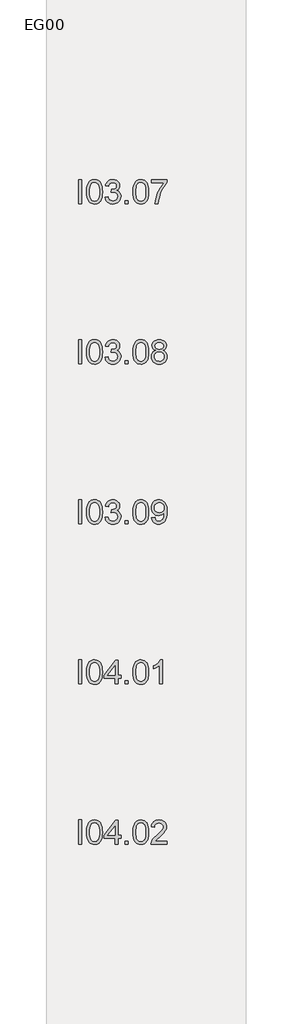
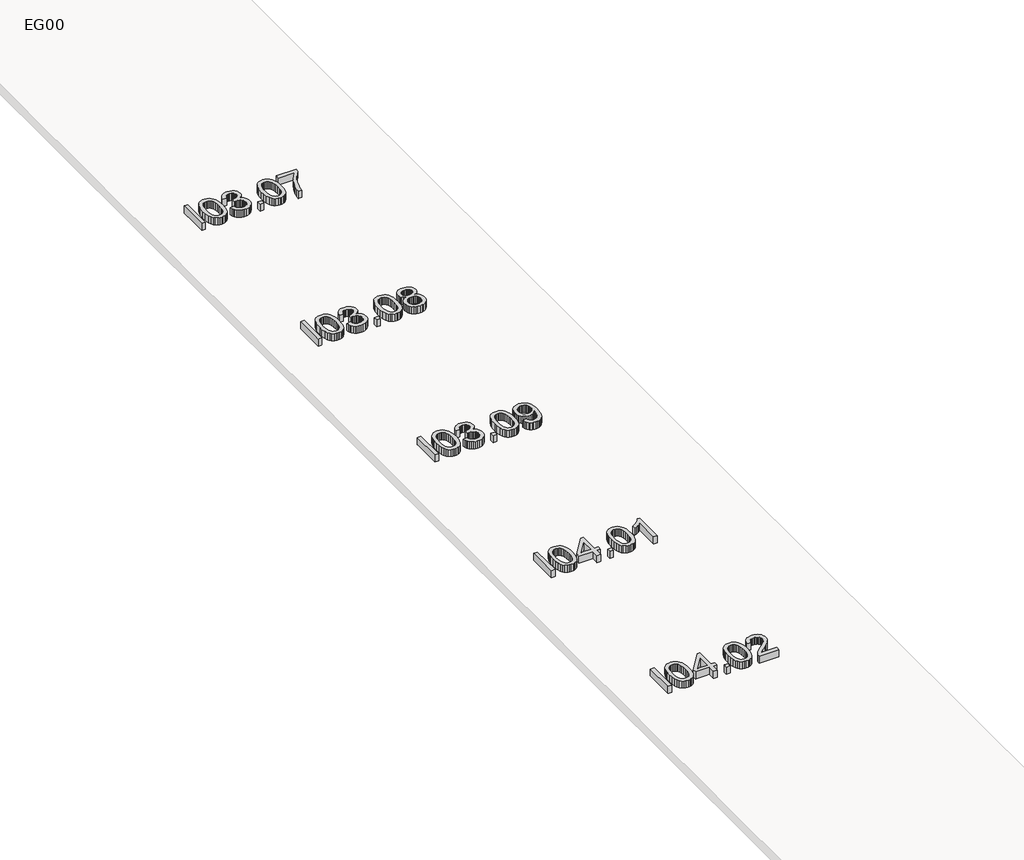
# One storey, part 7 of 11: 5 proxies.
"""IFC4 building model written with IfcOpenShell, lengths in millimetres."""

from ifc_helpers import new_model, si_unit, origin, origin_with_axes, place, context, project, spatial, polyline, outline, extrude, element, save

model = new_model("IFC4")

# Units and contexts
model_context = context("Model", 3, world=origin())
ifc_project = project(units=[si_unit("LENGTHUNIT", "METRE", prefix="MILLI")], contexts=[model_context])

# Site, building, storey
site = spatial("IfcSite", under=ifc_project)
building = spatial("IfcBuilding", under=site)
storey = spatial("IfcBuildingStorey", under=building, Name="EG00", Elevation=0.0)

# Proxies
placement = place(None, origin())
element("IfcBuildingElementProxy", 1, Name="600mm Arial", ObjectType="600mm Arial", at=placement, inside=storey, context=model_context, shape_type="SweptSolid", body=[
    extrude(outline(polyline([(41098.4530284, -62070.0529019), (41098.4530284, -61467.315041), (41173.795261, -61467.315041), (41173.795261, -62070.0529019), (41098.4530284, -62070.0529019)])), origin_with_axes(), (0.0, 0.0, 1.0), 150.0),
    extrude(outline(polyline([(41296.226389, -61773.5400137), (41301.763013, -61677.0629605), (41308.6837931, -61636.1498841), (41318.3728851, -61600.1204412), (41330.7889025, -61568.6803262), (41345.8904584, -61541.5352335), (41363.6775528, -61518.6851631), (41384.1501859, -61500.1301149), (41407.3773353, -61485.7735201), (41433.4279791, -61475.5188095), (41462.3021172, -61469.3659831), (41493.9997496, -61467.315041), (41540.4264574, -61472.1710833), (41581.9971229, -61486.7392103), (41616.7619714, -61510.4492049), (41642.7712285, -61542.73085), (41662.416127, -61583.308234), (41678.0879, -61631.9054456), (41688.3518077, -61693.6176503), (41691.7731102, -61773.5400137), (41686.2916685, -61869.465244), (41679.4398663, -61910.2403646), (41669.8473433, -61946.2238223), (41657.527895, -61977.6777329), (41642.495317, -62004.8642123), (41624.7496092, -62027.7832606), (41604.2907718, -62046.4348778), (41581.0360312, -62060.8880417), (41554.9026139, -62071.2117301), (41525.8905201, -62077.4059432), (41493.9997496, -62079.4706809), (41452.5026606, -62075.8838315), (41415.7144611, -62065.1232831), (41383.6351511, -62047.1890359), (41356.2647306, -62022.0810897), (41329.9979562, -61976.6936485), (41311.2359744, -61920.1409888), (41299.9787854, -61852.4231106), (41296.226389, -61773.5400137)]), holes=[polyline([(41371.5686216, -61773.3928609), (41373.7759136, -61838.8896517), (41380.3977895, -61891.9060457), (41391.4342494, -61932.442043), (41406.8852932, -61960.4976437), (41425.5736985, -61979.5861207), (41446.3222431, -61993.2207472), (41469.1309268, -62001.401523), (41493.9997496, -62004.1284483), (41518.8685725, -62001.392326), (41541.6772562, -61993.183959), (41562.4258007, -61979.5033473), (41581.1142061, -61960.3504909), (41596.5652499, -61932.248905), (41607.6017097, -61891.7221047), (41614.2235857, -61838.77009), (41616.4308776, -61773.3928609), (41614.2971621, -61709.6297141), (41607.8960153, -61657.5468207), (41597.2274375, -61617.1441805), (41582.2914285, -61588.4217938), (41563.9157228, -61568.3998162), (41542.928055, -61554.0984036), (41519.328425, -61545.5175561), (41493.1168328, -61542.6572736), (41468.3767687, -61545.1772652), (41445.9543611, -61552.7372402), (41425.84961, -61565.3371986), (41408.0625156, -61582.9771402), (41392.096437, -61614.2471098), (41380.6920951, -61656.4063865), (41373.84949, -61709.4549702), (41371.5686216, -61773.3928609)])]), origin_with_axes(), (0.0, 0.0, 1.0), 150.0),
    extrude(outline(polyline([(41757.6975638, -61909.9506576), (41833.0397964, -61900.5328785), (41849.9071859, -61947.8792913), (41861.279338, -61965.7859474), (41874.6104618, -61979.8482366), (41890.2040599, -61990.4708293), (41908.3636349, -61998.0583954), (41929.0891868, -62002.6109351), (41952.3807156, -62004.1284483), (41979.6775597, -62002.040718), (42004.0313477, -61995.777527), (42025.4420799, -61985.3388754), (42043.909756, -61970.7247632), (42058.7813857, -61953.0296392), (42069.4039783, -61933.3479525), (42075.7775338, -61911.6797029), (42077.9020524, -61888.0248906), (42075.7959279, -61865.496717), (42069.4775547, -61845.0010913), (42058.9469326, -61826.5380137), (42044.2040616, -61810.1074841), (42026.214632, -61796.6200104), (42005.9443341, -61786.9861007), (41983.3931678, -61781.2057548), (41958.5611331, -61779.2789729), (41934.759168, -61781.339112), (41905.7332786, -61787.5195296), (41914.1209881, -61712.177297), (41926.1875176, -61713.0602137), (41971.3266384, -61707.6523484), (42011.6832932, -61691.4287524), (42028.2931653, -61679.1598879), (42040.1573597, -61663.9847556), (42047.2758763, -61645.9033555), (42049.6487151, -61624.9156877), (42047.9288668, -61607.8781528), (42042.7693218, -61592.3765252), (42034.1700802, -61578.410805), (42022.1311419, -61565.9809921), (42007.3790739, -61555.7768652), (41990.6404431, -61548.4882032), (41951.2034932, -61542.6572736), (41930.5469192, -61544.1288016), (41911.692967, -61548.5433855), (41894.6416365, -61555.9010254), (41879.3929278, -61566.2017213), (41866.3239199, -61579.4454731), (41855.8116919, -61595.6322809), (41847.8562437, -61614.7621446), (41842.4575755, -61636.8350643), (41767.1153428, -61627.4172853), (41776.0456783, -61591.4476232), (41789.2986272, -61559.7637864), (41806.8741895, -61532.3657748), (41828.7723652, -61509.2535884), (41854.3033757, -61490.9054739), (41882.7774421, -61477.7996778), (41914.1945645, -61469.9362002), (41948.5547429, -61467.315041), (41995.9195497, -61472.483783), (42039.4215957, -61487.9900091), (42076.0994306, -61512.4541618), (42102.9916044, -61544.4966836), (42119.4911119, -61581.4136418), (42124.9909478, -61620.5011038), (42119.7670234, -61656.9214213), (42104.0952504, -61689.9572244), (42078.196358, -61718.1001971), (42042.2910752, -61739.842023), (42067.3990214, -61747.6963036), (42089.453547, -61758.8983103), (42108.4546521, -61773.4480432), (42124.4023366, -61791.3455023), (42137.020689, -61812.1492291), (42146.0337979, -61835.4177653), (42151.4416632, -61861.1511109), (42153.244285, -61889.3492658), (42149.6390414, -61927.5722051), (42138.8233108, -61962.7785121), (42120.797093, -61994.9681866), (42095.5603881, -62024.1412289), (42064.8146504, -62048.3478641), (42030.261334, -62065.6383179), (41991.9004389, -62076.0125902), (41949.7319653, -62079.4706809), (41911.6193906, -62076.5184279), (41876.8913302, -62067.6616689), (41845.5477842, -62052.9004038), (41817.5887526, -62032.2346328), (41794.1454724, -62006.8783662), (41776.3491809, -61978.0456149), (41764.199878, -61945.7363786), (41757.6975638, -61909.9506576)])), origin_with_axes(), (0.0, 0.0, 1.0), 150.0),
    extrude(outline(polyline([(42256.8398548, -62070.0529019), (42256.8398548, -61994.7106692), (42332.1820874, -61994.7106692), (42332.1820874, -62070.0529019), (42256.8398548, -62070.0529019)])), origin_with_axes(), (0.0, 0.0, 1.0), 150.0),
    extrude(outline(polyline([(42454.6132154, -61773.5400137), (42460.1498395, -61677.0629605), (42467.0706195, -61636.1498841), (42476.7597115, -61600.1204412), (42489.1757289, -61568.6803262), (42504.2772848, -61541.5352335), (42522.0643792, -61518.6851631), (42542.5370123, -61500.1301149), (42565.7641618, -61485.7735201), (42591.8148055, -61475.5188095), (42620.6889436, -61469.3659831), (42652.386576, -61467.315041), (42698.8132838, -61472.1710833), (42740.3839493, -61486.7392103), (42775.1487978, -61510.4492049), (42801.1580549, -61542.73085), (42820.8029534, -61583.308234), (42836.4747264, -61631.9054456), (42846.7386341, -61693.6176503), (42850.1599366, -61773.5400137), (42844.6784949, -61869.465244), (42837.8266928, -61910.2403646), (42828.2341697, -61946.2238223), (42815.9147214, -61977.6777329), (42800.8821434, -62004.8642123), (42783.1364357, -62027.7832606), (42762.6775982, -62046.4348778), (42739.4228576, -62060.8880417), (42713.2894403, -62071.2117301), (42684.2773465, -62077.4059432), (42652.386576, -62079.4706809), (42610.889487, -62075.8838315), (42574.1012875, -62065.1232831), (42542.0219775, -62047.1890359), (42514.651557, -62022.0810897), (42488.3847826, -61976.6936485), (42469.6228008, -61920.1409888), (42458.3656118, -61852.4231106), (42454.6132154, -61773.5400137)]), holes=[polyline([(42529.955448, -61773.3928609), (42532.16274, -61838.8896517), (42538.7846159, -61891.9060457), (42549.8210758, -61932.442043), (42565.2721196, -61960.4976437), (42583.9605249, -61979.5861207), (42604.7090695, -61993.2207472), (42627.5177532, -62001.401523), (42652.386576, -62004.1284483), (42677.2553989, -62001.392326), (42700.0640826, -61993.183959), (42720.8126271, -61979.5033473), (42739.5010325, -61960.3504909), (42754.9520763, -61932.248905), (42765.9885362, -61891.7221047), (42772.6104121, -61838.77009), (42774.817704, -61773.3928609), (42772.6839885, -61709.6297141), (42766.2828417, -61657.5468207), (42755.6142639, -61617.1441805), (42740.6782549, -61588.4217938), (42722.3025492, -61568.3998162), (42701.3148814, -61554.0984036), (42677.7152514, -61545.5175561), (42651.5036593, -61542.6572736), (42626.7635951, -61545.1772652), (42604.3411875, -61552.7372402), (42584.2364364, -61565.3371986), (42566.449342, -61582.9771402), (42550.4832634, -61614.2471098), (42539.0789215, -61656.4063865), (42532.2363164, -61709.4549702), (42529.955448, -61773.3928609)])]), origin_with_axes(), (0.0, 0.0, 1.0), 150.0),
    extrude(outline(polyline([(42916.0843902, -61552.0750527), (42916.0843902, -61476.73282), (43311.6311114, -61476.73282), (43311.6311114, -61537.6540784), (43255.2531956, -61609.0047914), (43199.4271029, -61699.7428855), (43150.1860978, -61801.5910159), (43130.2974774, -61853.5773403), (43113.5634452, -61906.2718376), (43095.6108038, -61984.5939144), (43085.6044136, -62070.0529019), (43010.2621809, -62070.0529019), (43018.4107671, -61992.3930127), (43040.2077754, -61900.0914201), (43056.0772849, -61850.7262549), (43075.0645944, -61802.2532035), (43097.1697038, -61754.6722659), (43122.3926131, -61707.9834422), (43177.6484888, -61622.763578), (43236.2888788, -61552.0750527), (42916.0843902, -61552.0750527)])), origin_with_axes(), (0.0, 0.0, 1.0), 150.0),
])
element("IfcBuildingElementProxy", 2, Name="600mm Arial", ObjectType="600mm Arial", at=placement, inside=storey, context=model_context, shape_type="SweptSolid", body=[
    extrude(outline(polyline([(41098.4530284, -66070.0529019), (41098.4530284, -65467.315041), (41173.795261, -65467.315041), (41173.795261, -66070.0529019), (41098.4530284, -66070.0529019)])), origin_with_axes(), (0.0, 0.0, 1.0), 150.0),
    extrude(outline(polyline([(41296.226389, -65773.5400137), (41301.763013, -65677.0629605), (41308.6837931, -65636.1498841), (41318.3728851, -65600.1204412), (41330.7889025, -65568.6803262), (41345.8904584, -65541.5352335), (41363.6775528, -65518.6851631), (41384.1501859, -65500.1301149), (41407.3773353, -65485.7735201), (41433.4279791, -65475.5188095), (41462.3021172, -65469.3659831), (41493.9997496, -65467.315041), (41540.4264574, -65472.1710833), (41581.9971229, -65486.7392103), (41616.7619714, -65510.4492049), (41642.7712285, -65542.73085), (41662.416127, -65583.308234), (41678.0879, -65631.9054456), (41688.3518077, -65693.6176503), (41691.7731102, -65773.5400137), (41686.2916685, -65869.465244), (41679.4398663, -65910.2403646), (41669.8473433, -65946.2238223), (41657.527895, -65977.6777329), (41642.495317, -66004.8642123), (41624.7496092, -66027.7832606), (41604.2907718, -66046.4348778), (41581.0360312, -66060.8880417), (41554.9026139, -66071.2117301), (41525.8905201, -66077.4059432), (41493.9997496, -66079.4706809), (41452.5026606, -66075.8838315), (41415.7144611, -66065.1232831), (41383.6351511, -66047.1890359), (41356.2647306, -66022.0810897), (41329.9979562, -65976.6936485), (41311.2359744, -65920.1409888), (41299.9787854, -65852.4231106), (41296.226389, -65773.5400137)]), holes=[polyline([(41371.5686216, -65773.3928609), (41373.7759136, -65838.8896517), (41380.3977895, -65891.9060457), (41391.4342494, -65932.442043), (41406.8852932, -65960.4976437), (41425.5736985, -65979.5861207), (41446.3222431, -65993.2207472), (41469.1309268, -66001.401523), (41493.9997496, -66004.1284483), (41518.8685725, -66001.392326), (41541.6772562, -65993.183959), (41562.4258007, -65979.5033473), (41581.1142061, -65960.3504909), (41596.5652499, -65932.248905), (41607.6017097, -65891.7221047), (41614.2235857, -65838.77009), (41616.4308776, -65773.3928609), (41614.2971621, -65709.6297141), (41607.8960153, -65657.5468207), (41597.2274375, -65617.1441805), (41582.2914285, -65588.4217938), (41563.9157228, -65568.3998162), (41542.928055, -65554.0984036), (41519.328425, -65545.5175561), (41493.1168328, -65542.6572736), (41468.3767687, -65545.1772652), (41445.9543611, -65552.7372402), (41425.84961, -65565.3371986), (41408.0625156, -65582.9771402), (41392.096437, -65614.2471098), (41380.6920951, -65656.4063865), (41373.84949, -65709.4549702), (41371.5686216, -65773.3928609)])]), origin_with_axes(), (0.0, 0.0, 1.0), 150.0),
    extrude(outline(polyline([(41757.6975638, -65909.9506576), (41833.0397964, -65900.5328785), (41849.9071859, -65947.8792913), (41861.279338, -65965.7859474), (41874.6104618, -65979.8482366), (41890.2040599, -65990.4708293), (41908.3636349, -65998.0583954), (41929.0891868, -66002.6109351), (41952.3807156, -66004.1284483), (41979.6775597, -66002.040718), (42004.0313477, -65995.777527), (42025.4420799, -65985.3388754), (42043.909756, -65970.7247632), (42058.7813857, -65953.0296392), (42069.4039783, -65933.3479525), (42075.7775338, -65911.6797029), (42077.9020524, -65888.0248906), (42075.7959279, -65865.496717), (42069.4775547, -65845.0010913), (42058.9469326, -65826.5380137), (42044.2040616, -65810.1074841), (42026.214632, -65796.6200104), (42005.9443341, -65786.9861007), (41983.3931678, -65781.2057548), (41958.5611331, -65779.2789729), (41934.759168, -65781.339112), (41905.7332786, -65787.5195296), (41914.1209881, -65712.177297), (41926.1875176, -65713.0602137), (41971.3266384, -65707.6523484), (42011.6832932, -65691.4287524), (42028.2931653, -65679.1598879), (42040.1573597, -65663.9847556), (42047.2758763, -65645.9033555), (42049.6487151, -65624.9156877), (42047.9288668, -65607.8781528), (42042.7693218, -65592.3765252), (42034.1700802, -65578.410805), (42022.1311419, -65565.9809921), (42007.3790739, -65555.7768652), (41990.6404431, -65548.4882032), (41951.2034932, -65542.6572736), (41930.5469192, -65544.1288016), (41911.692967, -65548.5433855), (41894.6416365, -65555.9010254), (41879.3929278, -65566.2017213), (41866.3239199, -65579.4454731), (41855.8116919, -65595.6322809), (41847.8562437, -65614.7621446), (41842.4575755, -65636.8350643), (41767.1153428, -65627.4172853), (41776.0456783, -65591.4476232), (41789.2986272, -65559.7637864), (41806.8741895, -65532.3657748), (41828.7723652, -65509.2535884), (41854.3033757, -65490.9054739), (41882.7774421, -65477.7996778), (41914.1945645, -65469.9362002), (41948.5547429, -65467.315041), (41995.9195497, -65472.483783), (42039.4215957, -65487.9900091), (42076.0994306, -65512.4541618), (42102.9916044, -65544.4966836), (42119.4911119, -65581.4136418), (42124.9909478, -65620.5011038), (42119.7670234, -65656.9214213), (42104.0952504, -65689.9572244), (42078.196358, -65718.1001971), (42042.2910752, -65739.842023), (42067.3990214, -65747.6963036), (42089.453547, -65758.8983103), (42108.4546521, -65773.4480432), (42124.4023366, -65791.3455023), (42137.020689, -65812.1492291), (42146.0337979, -65835.4177653), (42151.4416632, -65861.1511109), (42153.244285, -65889.3492658), (42149.6390414, -65927.5722051), (42138.8233108, -65962.7785121), (42120.797093, -65994.9681866), (42095.5603881, -66024.1412289), (42064.8146504, -66048.3478641), (42030.261334, -66065.6383179), (41991.9004389, -66076.0125902), (41949.7319653, -66079.4706809), (41911.6193906, -66076.5184279), (41876.8913302, -66067.6616689), (41845.5477842, -66052.9004038), (41817.5887526, -66032.2346328), (41794.1454724, -66006.8783662), (41776.3491809, -65978.0456149), (41764.199878, -65945.7363786), (41757.6975638, -65909.9506576)])), origin_with_axes(), (0.0, 0.0, 1.0), 150.0),
    extrude(outline(polyline([(42256.8398548, -66070.0529019), (42256.8398548, -65994.7106692), (42332.1820874, -65994.7106692), (42332.1820874, -66070.0529019), (42256.8398548, -66070.0529019)])), origin_with_axes(), (0.0, 0.0, 1.0), 150.0),
    extrude(outline(polyline([(42454.6132154, -65773.5400137), (42460.1498395, -65677.0629605), (42467.0706195, -65636.1498841), (42476.7597115, -65600.1204412), (42489.1757289, -65568.6803262), (42504.2772848, -65541.5352335), (42522.0643792, -65518.6851631), (42542.5370123, -65500.1301149), (42565.7641618, -65485.7735201), (42591.8148055, -65475.5188095), (42620.6889436, -65469.3659831), (42652.386576, -65467.315041), (42698.8132838, -65472.1710833), (42740.3839493, -65486.7392103), (42775.1487978, -65510.4492049), (42801.1580549, -65542.73085), (42820.8029534, -65583.308234), (42836.4747264, -65631.9054456), (42846.7386341, -65693.6176503), (42850.1599366, -65773.5400137), (42844.6784949, -65869.465244), (42837.8266928, -65910.2403646), (42828.2341697, -65946.2238223), (42815.9147214, -65977.6777329), (42800.8821434, -66004.8642123), (42783.1364357, -66027.7832606), (42762.6775982, -66046.4348778), (42739.4228576, -66060.8880417), (42713.2894403, -66071.2117301), (42684.2773465, -66077.4059432), (42652.386576, -66079.4706809), (42610.889487, -66075.8838315), (42574.1012875, -66065.1232831), (42542.0219775, -66047.1890359), (42514.651557, -66022.0810897), (42488.3847826, -65976.6936485), (42469.6228008, -65920.1409888), (42458.3656118, -65852.4231106), (42454.6132154, -65773.5400137)]), holes=[polyline([(42529.955448, -65773.3928609), (42532.16274, -65838.8896517), (42538.7846159, -65891.9060457), (42549.8210758, -65932.442043), (42565.2721196, -65960.4976437), (42583.9605249, -65979.5861207), (42604.7090695, -65993.2207472), (42627.5177532, -66001.401523), (42652.386576, -66004.1284483), (42677.2553989, -66001.392326), (42700.0640826, -65993.183959), (42720.8126271, -65979.5033473), (42739.5010325, -65960.3504909), (42754.9520763, -65932.248905), (42765.9885362, -65891.7221047), (42772.6104121, -65838.77009), (42774.817704, -65773.3928609), (42772.6839885, -65709.6297141), (42766.2828417, -65657.5468207), (42755.6142639, -65617.1441805), (42740.6782549, -65588.4217938), (42722.3025492, -65568.3998162), (42701.3148814, -65554.0984036), (42677.7152514, -65545.5175561), (42651.5036593, -65542.6572736), (42626.7635951, -65545.1772652), (42604.3411875, -65552.7372402), (42584.2364364, -65565.3371986), (42566.449342, -65582.9771402), (42550.4832634, -65614.2471098), (42539.0789215, -65656.4063865), (42532.2363164, -65709.4549702), (42529.955448, -65773.3928609)])]), origin_with_axes(), (0.0, 0.0, 1.0), 150.0),
    extrude(outline(polyline([(43025.8603775, -65738.0761894), (42985.5221168, -65718.2105617), (42969.8641394, -65705.6289974), (42957.2135972, -65691.2815996), (42940.4933606, -65657.8411263), (42934.9199483, -65618.4409646), (42937.9549748, -65587.7136209), (42947.0600542, -65559.5430572), (42962.2351865, -65533.9292732), (42983.4803717, -65510.8722692), (43009.7747373, -65491.8159818), (43040.0974108, -65478.204348), (43074.4483921, -65470.0373677), (43112.8276812, -65467.315041), (43151.3909113, -65470.1017471), (43185.99941, -65478.4618654), (43216.6531773, -65492.395396), (43243.3522131, -65511.9023388), (43264.9836744, -65535.4099983), (43280.4347182, -65561.3456789), (43289.7053445, -65589.7093808), (43292.7955532, -65620.5011038), (43287.2957174, -65658.6320726), (43270.7962099, -65691.5023288), (43258.3755941, -65705.7531576), (43243.1130898, -65718.265744), (43204.062416, -65738.0761894), (43228.8254728, -65748.61141), (43250.4339415, -65761.970125), (43268.8878221, -65778.1523343), (43284.1871146, -65797.1580378), (43296.1938632, -65818.5641714), (43304.7701122, -65841.9476708), (43309.9158616, -65867.3085358), (43311.6311114, -65894.6467666), (43308.2282029, -65932.2259124), (43298.0194776, -65966.6780612), (43281.0049353, -65998.0032131), (43257.1845761, -66026.201368), (43227.8091988, -66049.5066924), (43194.1296021, -66066.1533527), (43156.1457861, -66076.1413489), (43113.8577508, -66079.4706809), (43071.5697154, -66076.1275533), (43033.5858994, -66066.0981704), (42999.9063028, -66049.3825323), (42970.5309255, -66025.9806388), (42946.7105663, -65997.5847473), (42929.696024, -65965.8871149), (42919.4872986, -65930.8877416), (42916.0843902, -65892.5866274), (42917.8686179, -65864.0021964), (42923.2213009, -65837.8457865), (42932.1424393, -65814.1173978), (42944.632033, -65792.8170303), (42960.4141706, -65774.33096), (42979.2129406, -65759.0454631), (43001.0283429, -65746.9605396), (43025.8603775, -65738.0761894)]), holes=[polyline([(43010.2621809, -65620.6482566), (43011.9314455, -65637.9203162), (43016.9392392, -65653.5369069), (43025.2855619, -65667.4980286), (43036.9704138, -65679.8036814), (43051.846642, -65689.8468598), (43069.7670937, -65697.0205588), (43090.7317689, -65701.3247781), (43114.7406676, -65702.7595179), (43138.1563566, -65701.3339751), (43158.6657778, -65697.057347), (43176.2689313, -65689.9296333), (43190.965817, -65679.9508342), (43202.5540998, -65667.9026988), (43210.8314447, -65654.5669765), (43215.7978517, -65639.9436672), (43217.4533206, -65624.0327709), (43215.7426694, -65607.5010737), (43210.6107155, -65592.339737), (43202.0574591, -65578.5487607), (43190.0829002, -65566.1281449), (43175.0549207, -65555.8596387), (43157.3414026, -65548.5249914), (43136.942346, -65544.124203), (43113.8577508, -65542.6572736), (43090.5938131, -65544.0920134), (43070.0981875, -65548.3962327), (43052.3708738, -65555.5699316), (43037.4118722, -65565.6131101), (43025.5338823, -65577.6612454), (43017.0496038, -65590.8498149), (43011.9590367, -65605.1788187), (43010.2621809, -65620.6482566)]), polyline([(42991.4266228, -65889.937877), (42994.5720139, -65918.7614313), (43004.008187, -65946.6652807), (43021.4273995, -65971.0006747), (43048.5219084, -65989.1188629), (43080.9691004, -66000.376052), (43114.446362, -66004.1284483), (43141.6880237, -66002.1556811), (43165.7291121, -65996.2373795), (43186.5696271, -65986.3735435), (43204.2095688, -65972.5641731), (43218.2442669, -65955.7105792), (43228.2690513, -65936.7140727), (43234.2839219, -65915.5746536), (43236.2888788, -65892.2923218), (43234.2195426, -65868.6375095), (43228.0115339, -65847.1164128), (43217.6648528, -65827.7290316), (43203.1794992, -65810.4753661), (43185.061311, -65796.3119092), (43163.8161257, -65786.1951544), (43139.4439436, -65780.1251015), (43111.9447644, -65778.1017505), (43085.1031743, -65780.0975103), (43061.3793842, -65786.0847898), (43040.7733939, -65796.0635889), (43023.2852036, -65810.0339077), (43009.3470745, -65827.0024647), (42999.391268, -65845.9759786), (42993.4177841, -65866.9544494), (42991.4266228, -65889.937877)])]), origin_with_axes(), (0.0, 0.0, 1.0), 150.0),
])
element("IfcBuildingElementProxy", 3, Name="600mm Arial", ObjectType="600mm Arial", at=placement, inside=storey, context=model_context, shape_type="SweptSolid", body=[
    extrude(outline(polyline([(41098.4530284, -70070.0529019), (41098.4530284, -69467.315041), (41173.795261, -69467.315041), (41173.795261, -70070.0529019), (41098.4530284, -70070.0529019)])), origin_with_axes(), (0.0, 0.0, 1.0), 150.0),
    extrude(outline(polyline([(41296.226389, -69773.5400137), (41301.763013, -69677.0629605), (41308.6837931, -69636.1498841), (41318.3728851, -69600.1204412), (41330.7889025, -69568.6803262), (41345.8904584, -69541.5352335), (41363.6775528, -69518.6851631), (41384.1501859, -69500.1301149), (41407.3773353, -69485.7735201), (41433.4279791, -69475.5188095), (41462.3021172, -69469.3659831), (41493.9997496, -69467.315041), (41540.4264574, -69472.1710833), (41581.9971229, -69486.7392103), (41616.7619714, -69510.4492049), (41642.7712285, -69542.73085), (41662.416127, -69583.308234), (41678.0879, -69631.9054456), (41688.3518077, -69693.6176503), (41691.7731102, -69773.5400137), (41686.2916685, -69869.465244), (41679.4398663, -69910.2403646), (41669.8473433, -69946.2238223), (41657.527895, -69977.6777329), (41642.495317, -70004.8642123), (41624.7496092, -70027.7832606), (41604.2907718, -70046.4348778), (41581.0360312, -70060.8880417), (41554.9026139, -70071.2117301), (41525.8905201, -70077.4059432), (41493.9997496, -70079.4706809), (41452.5026606, -70075.8838315), (41415.7144611, -70065.1232831), (41383.6351511, -70047.1890359), (41356.2647306, -70022.0810897), (41329.9979562, -69976.6936485), (41311.2359744, -69920.1409888), (41299.9787854, -69852.4231106), (41296.226389, -69773.5400137)]), holes=[polyline([(41371.5686216, -69773.3928609), (41373.7759136, -69838.8896517), (41380.3977895, -69891.9060457), (41391.4342494, -69932.442043), (41406.8852932, -69960.4976437), (41425.5736985, -69979.5861207), (41446.3222431, -69993.2207472), (41469.1309268, -70001.401523), (41493.9997496, -70004.1284483), (41518.8685725, -70001.392326), (41541.6772562, -69993.183959), (41562.4258007, -69979.5033473), (41581.1142061, -69960.3504909), (41596.5652499, -69932.248905), (41607.6017097, -69891.7221047), (41614.2235857, -69838.77009), (41616.4308776, -69773.3928609), (41614.2971621, -69709.6297141), (41607.8960153, -69657.5468207), (41597.2274375, -69617.1441805), (41582.2914285, -69588.4217938), (41563.9157228, -69568.3998162), (41542.928055, -69554.0984036), (41519.328425, -69545.5175561), (41493.1168328, -69542.6572736), (41468.3767687, -69545.1772652), (41445.9543611, -69552.7372402), (41425.84961, -69565.3371986), (41408.0625156, -69582.9771402), (41392.096437, -69614.2471098), (41380.6920951, -69656.4063865), (41373.84949, -69709.4549702), (41371.5686216, -69773.3928609)])]), origin_with_axes(), (0.0, 0.0, 1.0), 150.0),
    extrude(outline(polyline([(41757.6975638, -69909.9506576), (41833.0397964, -69900.5328785), (41849.9071859, -69947.8792913), (41861.279338, -69965.7859474), (41874.6104618, -69979.8482366), (41890.2040599, -69990.4708293), (41908.3636349, -69998.0583954), (41929.0891868, -70002.6109351), (41952.3807156, -70004.1284483), (41979.6775597, -70002.040718), (42004.0313477, -69995.777527), (42025.4420799, -69985.3388754), (42043.909756, -69970.7247632), (42058.7813857, -69953.0296392), (42069.4039783, -69933.3479525), (42075.7775338, -69911.6797029), (42077.9020524, -69888.0248906), (42075.7959279, -69865.496717), (42069.4775547, -69845.0010913), (42058.9469326, -69826.5380137), (42044.2040616, -69810.1074841), (42026.214632, -69796.6200104), (42005.9443341, -69786.9861007), (41983.3931678, -69781.2057548), (41958.5611331, -69779.2789729), (41934.759168, -69781.339112), (41905.7332786, -69787.5195296), (41914.1209881, -69712.177297), (41926.1875176, -69713.0602137), (41971.3266384, -69707.6523484), (42011.6832932, -69691.4287524), (42028.2931653, -69679.1598879), (42040.1573597, -69663.9847556), (42047.2758763, -69645.9033555), (42049.6487151, -69624.9156877), (42047.9288668, -69607.8781528), (42042.7693218, -69592.3765252), (42034.1700802, -69578.410805), (42022.1311419, -69565.9809921), (42007.3790739, -69555.7768652), (41990.6404431, -69548.4882032), (41951.2034932, -69542.6572736), (41930.5469192, -69544.1288016), (41911.692967, -69548.5433855), (41894.6416365, -69555.9010254), (41879.3929278, -69566.2017213), (41866.3239199, -69579.4454731), (41855.8116919, -69595.6322809), (41847.8562437, -69614.7621446), (41842.4575755, -69636.8350643), (41767.1153428, -69627.4172853), (41776.0456783, -69591.4476232), (41789.2986272, -69559.7637864), (41806.8741895, -69532.3657748), (41828.7723652, -69509.2535884), (41854.3033757, -69490.9054739), (41882.7774421, -69477.7996778), (41914.1945645, -69469.9362002), (41948.5547429, -69467.315041), (41995.9195497, -69472.483783), (42039.4215957, -69487.9900091), (42076.0994306, -69512.4541618), (42102.9916044, -69544.4966836), (42119.4911119, -69581.4136418), (42124.9909478, -69620.5011038), (42119.7670234, -69656.9214213), (42104.0952504, -69689.9572244), (42078.196358, -69718.1001971), (42042.2910752, -69739.842023), (42067.3990214, -69747.6963036), (42089.453547, -69758.8983103), (42108.4546521, -69773.4480432), (42124.4023366, -69791.3455023), (42137.020689, -69812.1492291), (42146.0337979, -69835.4177653), (42151.4416632, -69861.1511109), (42153.244285, -69889.3492658), (42149.6390414, -69927.5722051), (42138.8233108, -69962.7785121), (42120.797093, -69994.9681866), (42095.5603881, -70024.1412289), (42064.8146504, -70048.3478641), (42030.261334, -70065.6383179), (41991.9004389, -70076.0125902), (41949.7319653, -70079.4706809), (41911.6193906, -70076.5184279), (41876.8913302, -70067.6616689), (41845.5477842, -70052.9004038), (41817.5887526, -70032.2346328), (41794.1454724, -70006.8783662), (41776.3491809, -69978.0456149), (41764.199878, -69945.7363786), (41757.6975638, -69909.9506576)])), origin_with_axes(), (0.0, 0.0, 1.0), 150.0),
    extrude(outline(polyline([(42256.8398548, -70070.0529019), (42256.8398548, -69994.7106692), (42332.1820874, -69994.7106692), (42332.1820874, -70070.0529019), (42256.8398548, -70070.0529019)])), origin_with_axes(), (0.0, 0.0, 1.0), 150.0),
    extrude(outline(polyline([(42454.6132154, -69773.5400137), (42460.1498395, -69677.0629605), (42467.0706195, -69636.1498841), (42476.7597115, -69600.1204412), (42489.1757289, -69568.6803262), (42504.2772848, -69541.5352335), (42522.0643792, -69518.6851631), (42542.5370123, -69500.1301149), (42565.7641618, -69485.7735201), (42591.8148055, -69475.5188095), (42620.6889436, -69469.3659831), (42652.386576, -69467.315041), (42698.8132838, -69472.1710833), (42740.3839493, -69486.7392103), (42775.1487978, -69510.4492049), (42801.1580549, -69542.73085), (42820.8029534, -69583.308234), (42836.4747264, -69631.9054456), (42846.7386341, -69693.6176503), (42850.1599366, -69773.5400137), (42844.6784949, -69869.465244), (42837.8266928, -69910.2403646), (42828.2341697, -69946.2238223), (42815.9147214, -69977.6777329), (42800.8821434, -70004.8642123), (42783.1364357, -70027.7832606), (42762.6775982, -70046.4348778), (42739.4228576, -70060.8880417), (42713.2894403, -70071.2117301), (42684.2773465, -70077.4059432), (42652.386576, -70079.4706809), (42610.889487, -70075.8838315), (42574.1012875, -70065.1232831), (42542.0219775, -70047.1890359), (42514.651557, -70022.0810897), (42488.3847826, -69976.6936485), (42469.6228008, -69920.1409888), (42458.3656118, -69852.4231106), (42454.6132154, -69773.5400137)]), holes=[polyline([(42529.955448, -69773.3928609), (42532.16274, -69838.8896517), (42538.7846159, -69891.9060457), (42549.8210758, -69932.442043), (42565.2721196, -69960.4976437), (42583.9605249, -69979.5861207), (42604.7090695, -69993.2207472), (42627.5177532, -70001.401523), (42652.386576, -70004.1284483), (42677.2553989, -70001.392326), (42700.0640826, -69993.183959), (42720.8126271, -69979.5033473), (42739.5010325, -69960.3504909), (42754.9520763, -69932.248905), (42765.9885362, -69891.7221047), (42772.6104121, -69838.77009), (42774.817704, -69773.3928609), (42772.6839885, -69709.6297141), (42766.2828417, -69657.5468207), (42755.6142639, -69617.1441805), (42740.6782549, -69588.4217938), (42722.3025492, -69568.3998162), (42701.3148814, -69554.0984036), (42677.7152514, -69545.5175561), (42651.5036593, -69542.6572736), (42626.7635951, -69545.1772652), (42604.3411875, -69552.7372402), (42584.2364364, -69565.3371986), (42566.449342, -69582.9771402), (42550.4832634, -69614.2471098), (42539.0789215, -69656.4063865), (42532.2363164, -69709.4549702), (42529.955448, -69773.3928609)])]), origin_with_axes(), (0.0, 0.0, 1.0), 150.0),
    extrude(outline(polyline([(42925.5021693, -69919.3684366), (43000.8444019, -69909.9506576), (43013.7202717, -69952.7169395), (43023.1932331, -69968.9819222), (43034.6895454, -69981.8347994), (43048.0804501, -69991.5882708), (43063.2371883, -69998.5550361), (43098.8481654, -70004.1284483), (43130.7987167, -70000.5415989), (43159.8430002, -69989.7810505), (43183.9760591, -69973.0240256), (43201.1929364, -69951.4477466), (43214.2343532, -69923.0840448), (43225.8410301, -69885.9647515), (43234.0080104, -69843.3640164), (43236.7303372, -69798.5559894), (43236.2888788, -69783.8407096), (43210.1876512, -69815.6992904), (43176.029808, -69840.9359953), (43136.2801584, -69857.3803204), (43093.4035119, -69862.8617622), (43057.6131923, -69859.514036), (43024.7015493, -69849.4708576), (42994.6685829, -69832.7322268), (42967.5142931, -69809.2981437), (42945.0137106, -69780.3918159), (42928.9418659, -69747.2364511), (42919.2987591, -69709.8320492), (42916.0843902, -69668.1786103), (42919.455109, -69625.1364169), (42929.5672653, -69586.5088074), (42946.4208592, -69552.2957818), (42970.0158907, -69522.4973402), (42998.6876937, -69498.3550843), (43030.7716022, -69481.1106158), (43066.2676162, -69470.7639347), (43105.1757357, -69467.315041), (43133.902721, -69469.2832096), (43161.3697105, -69475.1877157), (43187.5767041, -69485.028559), (43212.5237019, -69498.8057397), (43235.3783708, -69516.2249522), (43255.3083779, -69536.9918908), (43272.3137232, -69561.1065556), (43286.3944065, -69588.5689466), (43297.4354649, -69620.9609562), (43305.3219352, -69659.8644772), (43310.0538173, -69705.2795095), (43311.6311114, -69757.2060532), (43310.0584159, -69811.7399604), (43305.3403293, -69860.4153469), (43297.4768516, -69903.2322126), (43286.4679829, -69940.1905576), (43272.3551099, -69972.1916926), (43255.1796192, -70000.1369287), (43234.941511, -70024.0262657), (43211.6407851, -70043.8597038), (43185.7464912, -70059.4395063), (43157.7276787, -70070.5679367), (43127.5843477, -70077.2449949), (43095.3164982, -70079.4706809), (43061.4805517, -70076.8449232), (43030.9003609, -70068.96765), (43003.5759257, -70055.8388613), (42979.5072462, -70037.4585571), (42959.3013276, -70014.3233781), (42943.5651752, -69986.929965), (42932.2987891, -69955.2783179), (42925.5021693, -69919.3684366)]), holes=[polyline([(43236.2888788, -69666.4127768), (43234.2563308, -69639.4102383), (43228.1586867, -69615.3507558), (43217.9959466, -69594.2343293), (43203.7681104, -69576.0609587), (43186.174154, -69561.4468465), (43165.9130531, -69551.0081949), (43142.9848078, -69544.7450039), (43117.3894179, -69542.6572736), (43090.9754907, -69544.9059523), (43067.063161, -69551.6519884), (43045.6524289, -69562.8953818), (43026.7432943, -69578.6361327), (43011.2922505, -69597.954536), (43000.2557907, -69619.9308867), (42993.6339148, -69644.5651848), (42991.4266228, -69671.8574303), (42993.5143531, -69696.3353785), (42999.7775441, -69718.4128968), (43010.2161957, -69738.089985), (43024.830308, -69755.3666432), (43043.0128756, -69769.433531), (43064.1568932, -69779.481308), (43088.262361, -69785.5099742), (43115.3292788, -69787.5195296), (43140.5705822, -69785.5099742), (43163.4666378, -69779.481308), (43184.0174458, -69769.433531), (43202.223006, -69755.3666432), (43217.1268254, -69737.7496941), (43227.7724106, -69717.0517334), (43234.1597617, -69693.2727609), (43236.2888788, -69666.4127768)])]), origin_with_axes(), (0.0, 0.0, 1.0), 150.0),
])
element("IfcBuildingElementProxy", 4, Name="600mm Arial", ObjectType="600mm Arial", at=placement, inside=storey, context=model_context, shape_type="SweptSolid", body=[
    extrude(outline(polyline([(41098.4530284, -74070.0529019), (41098.4530284, -73467.315041), (41173.795261, -73467.315041), (41173.795261, -74070.0529019), (41098.4530284, -74070.0529019)])), origin_with_axes(), (0.0, 0.0, 1.0), 150.0),
    extrude(outline(polyline([(41296.226389, -73773.5400137), (41301.763013, -73677.0629605), (41308.6837931, -73636.1498841), (41318.3728851, -73600.1204412), (41330.7889025, -73568.6803262), (41345.8904584, -73541.5352335), (41363.6775528, -73518.6851631), (41384.1501859, -73500.1301149), (41407.3773353, -73485.7735201), (41433.4279791, -73475.5188095), (41462.3021172, -73469.3659831), (41493.9997496, -73467.315041), (41540.4264574, -73472.1710833), (41581.9971229, -73486.7392103), (41616.7619714, -73510.4492049), (41642.7712285, -73542.73085), (41662.416127, -73583.308234), (41678.0879, -73631.9054456), (41688.3518077, -73693.6176503), (41691.7731102, -73773.5400137), (41686.2916685, -73869.465244), (41679.4398663, -73910.2403646), (41669.8473433, -73946.2238223), (41657.527895, -73977.6777329), (41642.495317, -74004.8642123), (41624.7496092, -74027.7832606), (41604.2907718, -74046.4348778), (41581.0360312, -74060.8880417), (41554.9026139, -74071.2117301), (41525.8905201, -74077.4059432), (41493.9997496, -74079.4706809), (41452.5026606, -74075.8838315), (41415.7144611, -74065.1232831), (41383.6351511, -74047.1890359), (41356.2647306, -74022.0810897), (41329.9979562, -73976.6936485), (41311.2359744, -73920.1409888), (41299.9787854, -73852.4231106), (41296.226389, -73773.5400137)]), holes=[polyline([(41371.5686216, -73773.3928609), (41373.7759136, -73838.8896517), (41380.3977895, -73891.9060457), (41391.4342494, -73932.442043), (41406.8852932, -73960.4976437), (41425.5736985, -73979.5861207), (41446.3222431, -73993.2207472), (41469.1309268, -74001.401523), (41493.9997496, -74004.1284483), (41518.8685725, -74001.392326), (41541.6772562, -73993.183959), (41562.4258007, -73979.5033473), (41581.1142061, -73960.3504909), (41596.5652499, -73932.248905), (41607.6017097, -73891.7221047), (41614.2235857, -73838.77009), (41616.4308776, -73773.3928609), (41614.2971621, -73709.6297141), (41607.8960153, -73657.5468207), (41597.2274375, -73617.1441805), (41582.2914285, -73588.4217938), (41563.9157228, -73568.3998162), (41542.928055, -73554.0984036), (41519.328425, -73545.5175561), (41493.1168328, -73542.6572736), (41468.3767687, -73545.1772652), (41445.9543611, -73552.7372402), (41425.84961, -73565.3371986), (41408.0625156, -73582.9771402), (41392.096437, -73614.2471098), (41380.6920951, -73656.4063865), (41373.84949, -73709.4549702), (41371.5686216, -73773.3928609)])]), origin_with_axes(), (0.0, 0.0, 1.0), 150.0),
    extrude(outline(polyline([(42002.5598198, -74070.0529019), (42002.5598198, -73928.7862157), (41729.4442265, -73928.7862157), (41729.4442265, -73853.4439831), (42021.3953779, -73476.73282), (42077.9020524, -73476.73282), (42077.9020524, -73853.4439831), (42153.244285, -73853.4439831), (42153.244285, -73928.7862157), (42077.9020524, -73928.7862157), (42077.9020524, -74070.0529019), (42002.5598198, -74070.0529019)]), holes=[polyline([(42002.5598198, -73853.4439831), (42002.5598198, -73620.6482566), (41822.1504893, -73853.4439831), (42002.5598198, -73853.4439831)])]), origin_with_axes(), (0.0, 0.0, 1.0), 150.0),
    extrude(outline(polyline([(42256.8398548, -74070.0529019), (42256.8398548, -73994.7106692), (42332.1820874, -73994.7106692), (42332.1820874, -74070.0529019), (42256.8398548, -74070.0529019)])), origin_with_axes(), (0.0, 0.0, 1.0), 150.0),
    extrude(outline(polyline([(42454.6132154, -73773.5400137), (42460.1498395, -73677.0629605), (42467.0706195, -73636.1498841), (42476.7597115, -73600.1204412), (42489.1757289, -73568.6803262), (42504.2772848, -73541.5352335), (42522.0643792, -73518.6851631), (42542.5370123, -73500.1301149), (42565.7641618, -73485.7735201), (42591.8148055, -73475.5188095), (42620.6889436, -73469.3659831), (42652.386576, -73467.315041), (42698.8132838, -73472.1710833), (42740.3839493, -73486.7392103), (42775.1487978, -73510.4492049), (42801.1580549, -73542.73085), (42820.8029534, -73583.308234), (42836.4747264, -73631.9054456), (42846.7386341, -73693.6176503), (42850.1599366, -73773.5400137), (42844.6784949, -73869.465244), (42837.8266928, -73910.2403646), (42828.2341697, -73946.2238223), (42815.9147214, -73977.6777329), (42800.8821434, -74004.8642123), (42783.1364357, -74027.7832606), (42762.6775982, -74046.4348778), (42739.4228576, -74060.8880417), (42713.2894403, -74071.2117301), (42684.2773465, -74077.4059432), (42652.386576, -74079.4706809), (42610.889487, -74075.8838315), (42574.1012875, -74065.1232831), (42542.0219775, -74047.1890359), (42514.651557, -74022.0810897), (42488.3847826, -73976.6936485), (42469.6228008, -73920.1409888), (42458.3656118, -73852.4231106), (42454.6132154, -73773.5400137)]), holes=[polyline([(42529.955448, -73773.3928609), (42532.16274, -73838.8896517), (42538.7846159, -73891.9060457), (42549.8210758, -73932.442043), (42565.2721196, -73960.4976437), (42583.9605249, -73979.5861207), (42604.7090695, -73993.2207472), (42627.5177532, -74001.401523), (42652.386576, -74004.1284483), (42677.2553989, -74001.392326), (42700.0640826, -73993.183959), (42720.8126271, -73979.5033473), (42739.5010325, -73960.3504909), (42754.9520763, -73932.248905), (42765.9885362, -73891.7221047), (42772.6104121, -73838.77009), (42774.817704, -73773.3928609), (42772.6839885, -73709.6297141), (42766.2828417, -73657.5468207), (42755.6142639, -73617.1441805), (42740.6782549, -73588.4217938), (42722.3025492, -73568.3998162), (42701.3148814, -73554.0984036), (42677.7152514, -73545.5175561), (42651.5036593, -73542.6572736), (42626.7635951, -73545.1772652), (42604.3411875, -73552.7372402), (42584.2364364, -73565.3371986), (42566.449342, -73582.9771402), (42550.4832634, -73614.2471098), (42539.0789215, -73656.4063865), (42532.2363164, -73709.4549702), (42529.955448, -73773.3928609)])]), origin_with_axes(), (0.0, 0.0, 1.0), 150.0),
    extrude(outline(polyline([(43198.6177625, -74070.0529019), (43123.2755299, -74070.0529019), (43123.2755299, -73600.3411704), (43091.8216193, -73625.7802104), (43051.9064228, -73651.1824622), (43010.0046636, -73673.3841406), (42972.5910646, -73689.2214605), (42972.5910646, -73617.9995062), (43031.7648836, -73585.8098316), (43083.0292396, -73547.5133159), (43123.4410768, -73506.788779), (43150.0573391, -73467.315041), (43198.6177625, -73467.315041), (43198.6177625, -74070.0529019)])), origin_with_axes(), (0.0, 0.0, 1.0), 150.0),
])
element("IfcBuildingElementProxy", 5, Name="600mm Arial", ObjectType="600mm Arial", at=placement, inside=storey, context=model_context, shape_type="SweptSolid", body=[
    extrude(outline(polyline([(41098.4530284, -78070.0529019), (41098.4530284, -77467.315041), (41173.795261, -77467.315041), (41173.795261, -78070.0529019), (41098.4530284, -78070.0529019)])), origin_with_axes(), (0.0, 0.0, 1.0), 150.0),
    extrude(outline(polyline([(41296.226389, -77773.5400137), (41301.763013, -77677.0629605), (41308.6837931, -77636.1498841), (41318.3728851, -77600.1204412), (41330.7889025, -77568.6803262), (41345.8904584, -77541.5352335), (41363.6775528, -77518.6851631), (41384.1501859, -77500.1301149), (41407.3773353, -77485.7735201), (41433.4279791, -77475.5188095), (41462.3021172, -77469.3659831), (41493.9997496, -77467.315041), (41540.4264574, -77472.1710833), (41581.9971229, -77486.7392103), (41616.7619714, -77510.4492049), (41642.7712285, -77542.73085), (41662.416127, -77583.308234), (41678.0879, -77631.9054456), (41688.3518077, -77693.6176503), (41691.7731102, -77773.5400137), (41686.2916685, -77869.465244), (41679.4398663, -77910.2403646), (41669.8473433, -77946.2238223), (41657.527895, -77977.6777329), (41642.495317, -78004.8642123), (41624.7496092, -78027.7832606), (41604.2907718, -78046.4348778), (41581.0360312, -78060.8880417), (41554.9026139, -78071.2117301), (41525.8905201, -78077.4059432), (41493.9997496, -78079.4706809), (41452.5026606, -78075.8838315), (41415.7144611, -78065.1232831), (41383.6351511, -78047.1890359), (41356.2647306, -78022.0810897), (41329.9979562, -77976.6936485), (41311.2359744, -77920.1409888), (41299.9787854, -77852.4231106), (41296.226389, -77773.5400137)]), holes=[polyline([(41371.5686216, -77773.3928609), (41373.7759136, -77838.8896517), (41380.3977895, -77891.9060457), (41391.4342494, -77932.442043), (41406.8852932, -77960.4976437), (41425.5736985, -77979.5861207), (41446.3222431, -77993.2207472), (41469.1309268, -78001.401523), (41493.9997496, -78004.1284483), (41518.8685725, -78001.392326), (41541.6772562, -77993.183959), (41562.4258007, -77979.5033473), (41581.1142061, -77960.3504909), (41596.5652499, -77932.248905), (41607.6017097, -77891.7221047), (41614.2235857, -77838.77009), (41616.4308776, -77773.3928609), (41614.297162, -77709.6297141), (41607.8960153, -77657.5468207), (41597.2274375, -77617.1441805), (41582.2914285, -77588.4217938), (41563.9157228, -77568.3998162), (41542.928055, -77554.0984036), (41519.328425, -77545.5175561), (41493.1168328, -77542.6572736), (41468.3767687, -77545.1772652), (41445.9543611, -77552.7372402), (41425.84961, -77565.3371986), (41408.0625156, -77582.9771402), (41392.096437, -77614.2471098), (41380.6920951, -77656.4063865), (41373.84949, -77709.4549702), (41371.5686216, -77773.3928609)])]), origin_with_axes(), (0.0, 0.0, 1.0), 150.0),
    extrude(outline(polyline([(42002.5598198, -78070.0529019), (42002.5598198, -77928.7862157), (41729.4442265, -77928.7862157), (41729.4442265, -77853.4439831), (42021.3953779, -77476.73282), (42077.9020524, -77476.73282), (42077.9020524, -77853.4439831), (42153.244285, -77853.4439831), (42153.244285, -77928.7862157), (42077.9020524, -77928.7862157), (42077.9020524, -78070.0529019), (42002.5598198, -78070.0529019)]), holes=[polyline([(42002.5598198, -77853.4439831), (42002.5598198, -77620.6482566), (41822.1504893, -77853.4439831), (42002.5598198, -77853.4439831)])]), origin_with_axes(), (0.0, 0.0, 1.0), 150.0),
    extrude(outline(polyline([(42256.8398548, -78070.0529019), (42256.8398548, -77994.7106692), (42332.1820874, -77994.7106692), (42332.1820874, -78070.0529019), (42256.8398548, -78070.0529019)])), origin_with_axes(), (0.0, 0.0, 1.0), 150.0),
    extrude(outline(polyline([(42454.6132154, -77773.5400137), (42460.1498395, -77677.0629605), (42467.0706195, -77636.1498841), (42476.7597115, -77600.1204412), (42489.1757289, -77568.6803262), (42504.2772848, -77541.5352335), (42522.0643792, -77518.6851631), (42542.5370123, -77500.1301149), (42565.7641618, -77485.7735201), (42591.8148055, -77475.5188095), (42620.6889436, -77469.3659831), (42652.386576, -77467.315041), (42698.8132838, -77472.1710833), (42740.3839493, -77486.7392103), (42775.1487978, -77510.4492049), (42801.1580549, -77542.73085), (42820.8029534, -77583.308234), (42836.4747264, -77631.9054456), (42846.7386341, -77693.6176503), (42850.1599366, -77773.5400137), (42844.6784949, -77869.465244), (42837.8266928, -77910.2403646), (42828.2341697, -77946.2238223), (42815.9147214, -77977.6777329), (42800.8821434, -78004.8642123), (42783.1364357, -78027.7832606), (42762.6775982, -78046.4348778), (42739.4228576, -78060.8880417), (42713.2894403, -78071.2117301), (42684.2773465, -78077.4059432), (42652.386576, -78079.4706809), (42610.889487, -78075.8838315), (42574.1012875, -78065.1232831), (42542.0219775, -78047.1890359), (42514.651557, -78022.0810897), (42488.3847826, -77976.6936485), (42469.6228008, -77920.1409888), (42458.3656118, -77852.4231106), (42454.6132154, -77773.5400137)]), holes=[polyline([(42529.955448, -77773.3928609), (42532.16274, -77838.8896517), (42538.7846159, -77891.9060457), (42549.8210758, -77932.442043), (42565.2721196, -77960.4976437), (42583.9605249, -77979.5861207), (42604.7090695, -77993.2207472), (42627.5177532, -78001.401523), (42652.386576, -78004.1284483), (42677.2553989, -78001.392326), (42700.0640826, -77993.183959), (42720.8126271, -77979.5033473), (42739.5010325, -77960.3504909), (42754.9520763, -77932.248905), (42765.9885362, -77891.7221047), (42772.6104121, -77838.77009), (42774.817704, -77773.3928609), (42772.6839885, -77709.6297141), (42766.2828417, -77657.5468207), (42755.6142639, -77617.1441805), (42740.6782549, -77588.4217938), (42722.3025492, -77568.3998162), (42701.3148814, -77554.0984036), (42677.7152514, -77545.5175561), (42651.5036593, -77542.6572736), (42626.7635951, -77545.1772652), (42604.3411875, -77552.7372402), (42584.2364364, -77565.3371986), (42566.449342, -77582.9771402), (42550.4832634, -77614.2471098), (42539.0789215, -77656.4063865), (42532.2363164, -77709.4549702), (42529.955448, -77773.3928609)])]), origin_with_axes(), (0.0, 0.0, 1.0), 150.0),
    extrude(outline(polyline([(43302.2133323, -77994.7106692), (43302.2133323, -78070.0529019), (42906.6666111, -78070.0529019), (42908.3220801, -78043.52861), (42914.760015, -78018.1079641), (42933.3380558, -77977.512186), (42960.5245352, -77938.1304184), (42999.8511205, -77896.9092408), (43054.8494788, -77850.7952327), (43136.1513997, -77778.5799971), (43184.9325523, -77725.273896), (43199.1603884, -77703.4952819), (43209.3231285, -77682.0109733), (43215.4207726, -77660.8209704), (43217.4533206, -77639.9252731), (43215.5357357, -77620.266579), (43209.782981, -77602.1989745), (43200.1950565, -77585.7224596), (43186.7719622, -77570.8370344), (43170.2586592, -77558.508389), (43151.4001084, -77549.7022138), (43130.1963099, -77544.4185086), (43106.6472637, -77542.6572736), (43081.8382216, -77544.3771219), (43059.6503388, -77549.5366669), (43040.0836152, -77558.1359085), (43023.1380508, -77570.1748468), (43009.4298479, -77585.2488116), (42999.575209, -77602.9531326), (42993.5741339, -77623.2878099), (42991.4266228, -77646.2528434), (42916.0843902, -77636.8350643), (42922.5637118, -77597.9407404), (42934.3497312, -77563.9576411), (42951.4424484, -77534.8857664), (42973.8418634, -77510.7251164), (43001.0329414, -77491.7332084), (43032.5006476, -77478.1675598), (43068.2449819, -77470.0281707), (43108.2659445, -77467.315041), (43148.645592, -77470.3316733), (43184.5830644, -77479.3815704), (43216.0783617, -77494.4647322), (43243.1314839, -77515.5811587), (43264.8595142, -77541.1673515), (43280.3795359, -77569.659812), (43289.6915489, -77601.0585403), (43292.7955532, -77635.3635364), (43289.4478271, -77671.3975778), (43279.4046486, -77706.8062198), (43261.580766, -77742.8218672), (43234.8909272, -77780.6769245), (43192.3453745, -77825.8712276), (43126.9543498, -77883.9046123), (43040.2813518, -77956.3773654), (43006.2890554, -77994.7106692), (43302.2133323, -77994.7106692)])), origin_with_axes(), (0.0, 0.0, 1.0), 150.0),
])

save(model, "model.ifc")
